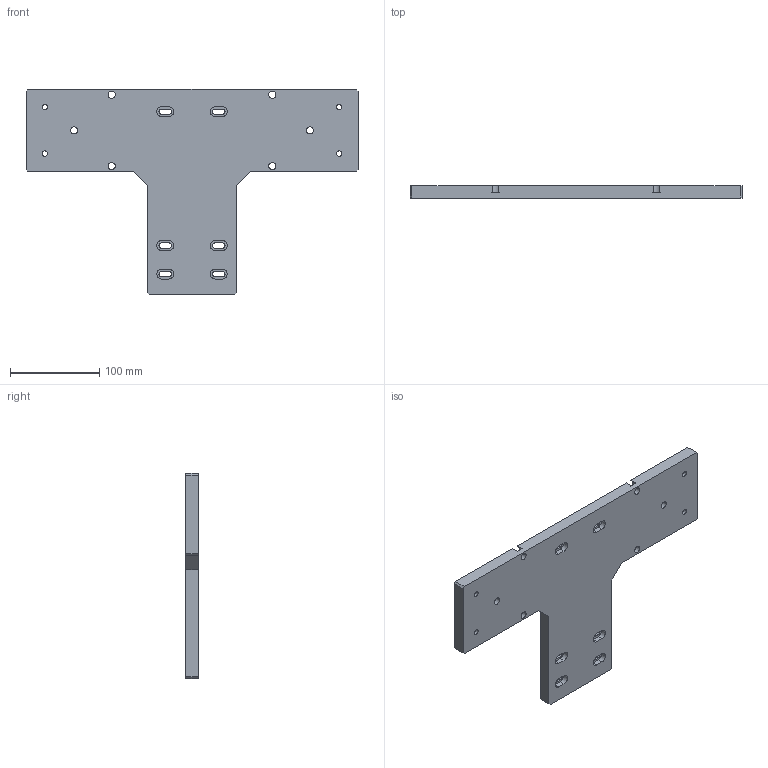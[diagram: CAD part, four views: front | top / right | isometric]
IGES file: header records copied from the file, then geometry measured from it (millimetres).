
Start section:  PTC IGES file: n100-n100m-st.igs
Global section: file name: n100-n100m-st.igs; native system: Pro/ENGINEER by Parametric Technology Corporation; preprocessor: 2008230; author: Owner; organization: Unknown; date: 20121212.095546; units: millimetre
Bounding box: 372 x 14 x 230 mm (x, y, z)
Surface area: 118754.6 mm2 (no closed solid volume)
Topology: 0 solids, 0 shells, 118 faces, 624 edges, 624 vertices
Faces by surface type: revolution 60, bspline 58
